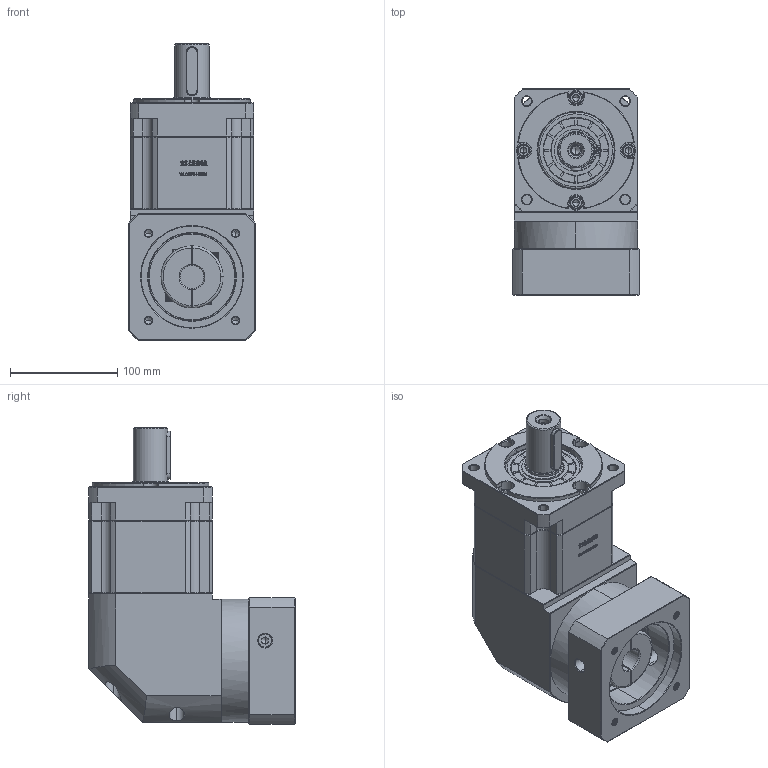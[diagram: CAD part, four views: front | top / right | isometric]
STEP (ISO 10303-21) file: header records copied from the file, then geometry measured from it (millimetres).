
FILE_DESCRIPTION (( 'STEP AP214' ), '1' );
FILE_NAME ('ZBR115A-D32-L2-22-95-115-M8.step', '2023-03-03T05:02:13', ( '' ), ( 'Microsoft' ), 'SwSTEP 2.0', 'SolidWorks 2016', '' );
FILE_SCHEMA (( 'AUTOMOTIVE_DESIGN' ));
Length unit declared in the file: millimetre
Products named in the file (1): ZBR115A-D32-L2-22-95-115-M8
Bounding box: 118 x 192.4 x 276.5 mm (x, y, z)
Volume: 3304795.3 mm3; surface area: 259904.3 mm2
Topology: 6 solids, 6 shells, 2983 faces, 7915 edges, 5078 vertices
Faces by surface type: plane 1559, bspline 607, cylinder 439, cone 370, torus 8
Entity records: 162115 total; most frequent: CARTESIAN_POINT 60115, ORIENTED_EDGE 15770, DIRECTION 11941, EDGE_CURVE 7885, LINE 5307, VECTOR 5307, VERTEX_POINT 5078, AXIS2_PLACEMENT_3D 3317
